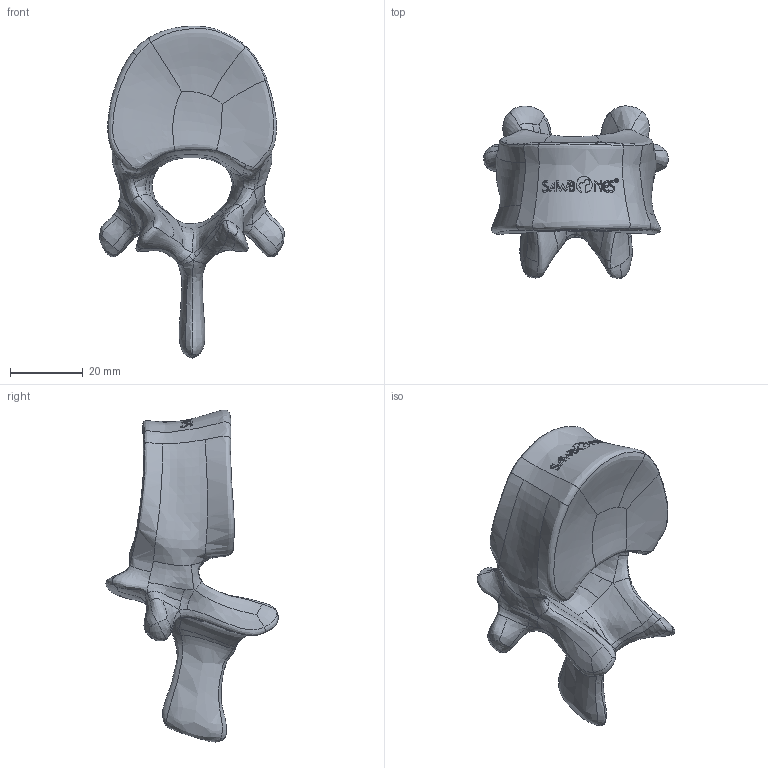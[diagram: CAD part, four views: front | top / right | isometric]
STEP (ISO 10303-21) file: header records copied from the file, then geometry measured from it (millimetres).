
FILE_DESCRIPTION (( 'STEP AP203' ), '1' );
FILE_NAME ('1379-60-12.STEP', '2026-07-28T19:28:37', ( '' ), ( '' ), 'SwSTEP 2.0', 'SolidWorks 2024', '' );
FILE_SCHEMA (( 'CONFIG_CONTROL_DESIGN' ));
Length unit declared in the file: millimetre
Products named in the file (1): 1379-60-12
Bounding box: 50.79 x 47.34 x 91.21 mm (x, y, z)
Volume: 44270.5 mm3; surface area: 11313.5 mm2
Topology: 1 solids, 1 shells, 361 faces, 965 edges, 620 vertices
Faces by surface type: bspline 360, plane 1
Entity records: 37719 total; most frequent: CARTESIAN_POINT 31676, ORIENTED_EDGE 1930, EDGE_CURVE 965, B_SPLINE_CURVE_WITH_KNOTS 965, VERTEX_POINT 620, EDGE_LOOP 377, FACE_OUTER_BOUND 361, ADVANCED_FACE 361
